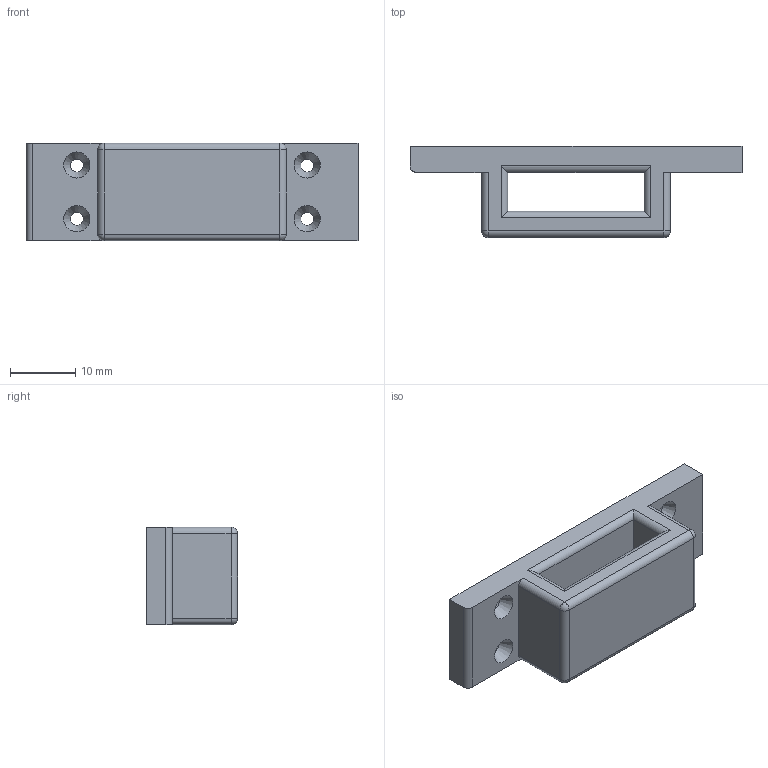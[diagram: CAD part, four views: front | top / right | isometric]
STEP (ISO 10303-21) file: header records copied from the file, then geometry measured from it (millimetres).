
FILE_DESCRIPTION(('STEP AP203'), '1');
FILE_NAME('ïîäâåñ ïîä ðåìåíü', '', ('UNSPECIFIED'), ('UNSPECIFIED'), 'ASCON STEP Converter 1.3', 'ASCON Math Kernel', '');
FILE_SCHEMA(('CONFIG_CONTROL_DESIGN'));
Length unit declared in the file: millimetre
Bounding box: 51 x 14 x 15 mm (x, y, z)
Volume: 5303.9 mm3; surface area: 3461.5 mm2
Topology: 1 solids, 1 shells, 47 faces, 115 edges, 66 vertices
Faces by surface type: cylinder 22, plane 17, cone 4, sphere 4
Full cylindrical faces by diameter (mm): 2 x4
Entity records: 2071 total; most frequent: CARTESIAN_POINT 621, ORIENTED_EDGE 206, DIRECTION 203, EDGE_CURVE 103, AXIS2_PLACEMENT_3D 72, VERTEX_POINT 66, EDGE_LOOP 65, LINE 59
